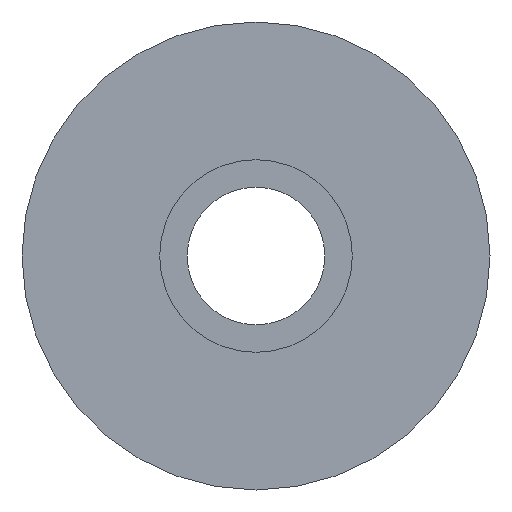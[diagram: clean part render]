
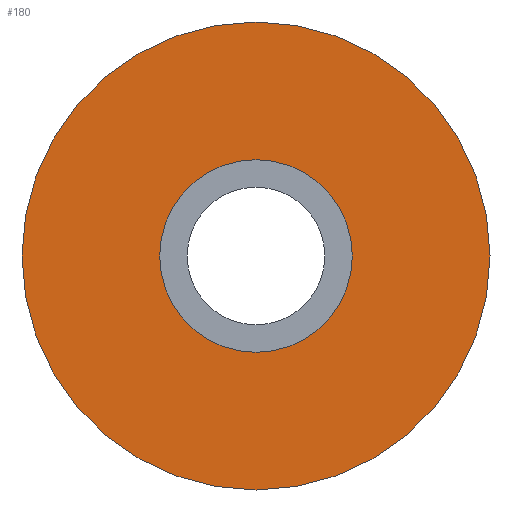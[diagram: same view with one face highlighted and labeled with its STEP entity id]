
A CAD part, front view. The second image highlights one B-rep face of the part: STEP entity #180.
In plain terms, the highlighted planar face has unit normal (0, -1, 0).
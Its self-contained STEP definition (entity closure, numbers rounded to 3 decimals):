
#28 = DIRECTION ( 'NONE',  ( 0., 1., 0. ) ) ;
#44 = EDGE_LOOP ( 'NONE', ( #122 ) ) ;
#58 = AXIS2_PLACEMENT_3D ( 'NONE', #227, #28, #92 ) ;
#65 = DIRECTION ( 'NONE',  ( 0., 0., 1. ) ) ;
#66 = FACE_OUTER_BOUND ( 'NONE', #44, .T. ) ;
#85 = AXIS2_PLACEMENT_3D ( 'NONE', #244, #247, #65 ) ;
#87 = CARTESIAN_POINT ( 'NONE',  ( 0., -3.5, 8.5 ) ) ;
#92 = DIRECTION ( 'NONE',  ( 0., 0., 1. ) ) ;
#93 = DIRECTION ( 'NONE',  ( 0., 0., 1. ) ) ;
#98 = CIRCLE ( 'NONE', #58, 3.5 ) ;
#105 = PLANE ( 'NONE',  #252 ) ;
#122 = ORIENTED_EDGE ( 'NONE', *, *, #214, .F. ) ;
#128 = CARTESIAN_POINT ( 'NONE',  ( 0., -3.5, 3.5 ) ) ;
#131 = VERTEX_POINT ( 'NONE', #128 ) ;
#147 = DIRECTION ( 'NONE',  ( 0., 1., 0. ) ) ;
#165 = VERTEX_POINT ( 'NONE', #87 ) ;
#175 = EDGE_LOOP ( 'NONE', ( #201 ) ) ;
#180 = ADVANCED_FACE ( 'NONE', ( #66, #184 ), #105, .F. ) ;
#182 = CARTESIAN_POINT ( 'NONE',  ( 3.5, -3.5, 0. ) ) ;
#184 = FACE_BOUND ( 'NONE', #175, .T. ) ;
#201 = ORIENTED_EDGE ( 'NONE', *, *, #249, .T. ) ;
#214 = EDGE_CURVE ( 'NONE', #165, #165, #242, .T. ) ;
#227 = CARTESIAN_POINT ( 'NONE',  ( 0., -3.5, 0. ) ) ;
#242 = CIRCLE ( 'NONE', #85, 8.5 ) ;
#244 = CARTESIAN_POINT ( 'NONE',  ( 0., -3.5, 0. ) ) ;
#247 = DIRECTION ( 'NONE',  ( 0., 1., 0. ) ) ;
#249 = EDGE_CURVE ( 'NONE', #131, #131, #98, .T. ) ;
#252 = AXIS2_PLACEMENT_3D ( 'NONE', #182, #147, #93 ) ;
